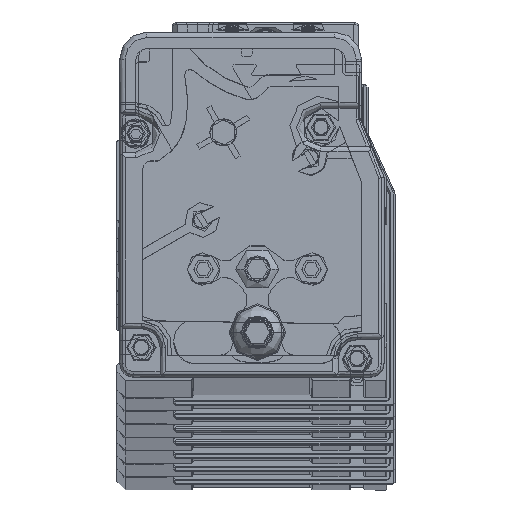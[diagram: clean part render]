
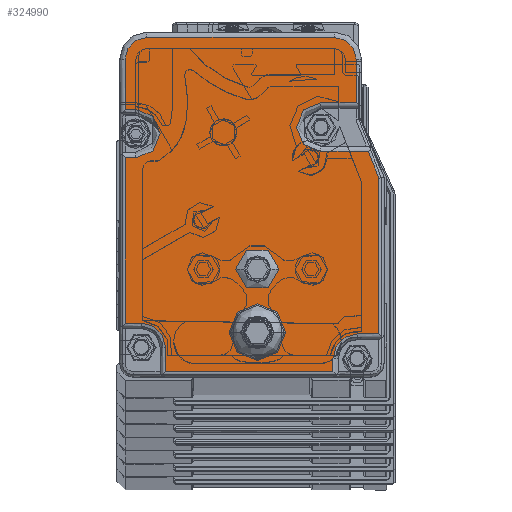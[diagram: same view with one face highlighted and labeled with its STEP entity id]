
A CAD part, top view. The second image highlights one B-rep face of the part: STEP entity #324990.
In plain terms, the highlighted planar face has unit normal (0, 0, 1).
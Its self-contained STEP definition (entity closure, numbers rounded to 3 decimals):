
#224670=CARTESIAN_POINT('',(-25.559,5.624,
2758.89));
#224680=DIRECTION('',(0.,0.,-1.));
#224690=DIRECTION('',(-1.,0.,0.));
#224700=AXIS2_PLACEMENT_3D('',#224670,#224680,#224690);
#224710=CIRCLE('',#224700,4.5);
#224720=CARTESIAN_POINT('',(-30.059,5.624,
2758.89));
#224730=VERTEX_POINT('',#224720);
#224740=CARTESIAN_POINT('',(-25.559,10.124,
2758.89));
#224750=VERTEX_POINT('',#224740);
#224760=EDGE_CURVE('',#224730,#224750,#224710,.T.);
#231020=CARTESIAN_POINT('',(-25.759,2.124,
2758.89));
#231030=DIRECTION('',(0.,1.,0.));
#231040=VECTOR('',#231030,1.);
#231050=LINE('',#231020,#231040);
#231060=CARTESIAN_POINT('',(-25.759,52.924,
2758.89));
#231070=VERTEX_POINT('',#231060);
#231080=CARTESIAN_POINT('',(-25.759,61.024,
2758.89));
#231090=VERTEX_POINT('',#231080);
#231100=EDGE_CURVE('',#231070,#231090,#231050,.T.);
#249650=CARTESIAN_POINT('',(-20.559,42.727,
2758.89));
#249660=DIRECTION('',(-1.,0.,0.));
#249670=VECTOR('',#249660,1.);
#249680=LINE('',#249650,#249670);
#249690=CARTESIAN_POINT('',(-66.559,42.727,
2758.89));
#249700=VERTEX_POINT('',#249690);
#249710=CARTESIAN_POINT('',(-68.559,42.727,
2758.89));
#249720=VERTEX_POINT('',#249710);
#249730=EDGE_CURVE('',#249700,#249720,#249680,.T.);
#270220=CARTESIAN_POINT('',(-29.759,61.024,
2758.89));
#270230=DIRECTION('',(0.,0.,1.));
#270240=DIRECTION('',(1.,0.,0.));
#270250=AXIS2_PLACEMENT_3D('',#270220,#270230,#270240);
#270260=CIRCLE('',#270250,4.);
#270270=CARTESIAN_POINT('',(-29.759,65.024,
2758.89));
#270280=VERTEX_POINT('',#270270);
#270290=EDGE_CURVE('',#231090,#270280,#270260,.T.);
#276880=CARTESIAN_POINT('',(-68.559,2.124,
2758.89));
#276890=DIRECTION('',(0.,-1.,0.));
#276900=VECTOR('',#276890,1.);
#276910=LINE('',#276880,#276900);
#276920=CARTESIAN_POINT('',(-68.559,12.124,
2758.89));
#276930=VERTEX_POINT('',#276920);
#276940=EDGE_CURVE('',#249720,#276930,#276910,.T.);
#323040=CARTESIAN_POINT('',(-7.243,2.124,
2758.89));
#323050=DIRECTION('',(0.362,-0.932,0.));
#323060=VECTOR('',#323050,1.);
#323070=LINE('',#323040,#323060);
#323080=CARTESIAN_POINT('',(-23.499,43.924,
2758.89));
#323090=VERTEX_POINT('',#323080);
#323100=CARTESIAN_POINT('',(-21.559,38.937,
2758.89));
#323110=VERTEX_POINT('',#323100);
#323120=EDGE_CURVE('',#323090,#323110,#323070,.T.);
#323400=CARTESIAN_POINT('',(-20.265,1.758,
2758.89));
#323410=DIRECTION('',(0.,0.,-1.));
#323420=DIRECTION('',(-1.,0.,0.));
#323430=AXIS2_PLACEMENT_3D('',#323400,#323410,#323420);
#323440=PLANE('',#323430);
#323450=CARTESIAN_POINT('',(-44.056,10.421,
2758.89));
#323460=DIRECTION('',(0.,0.,-1.));
#323470=DIRECTION('',(-1.,0.,0.));
#323480=AXIS2_PLACEMENT_3D('',#323450,#323460,#323470);
#323490=CIRCLE('',#323480,5.);
#323500=CARTESIAN_POINT('',(-39.056,10.421,
2758.89));
#323510=VERTEX_POINT('',#323500);
#323520=CARTESIAN_POINT('',(-49.056,10.421,
2758.89));
#323530=VERTEX_POINT('',#323520);
#323540=EDGE_CURVE('',#323510,#323530,#323490,.T.);
#323550=ORIENTED_EDGE('',*,*,#323540,.T.);
#323560=EDGE_CURVE('',#323530,#323510,#323490,.T.);
#323570=ORIENTED_EDGE('',*,*,#323560,.T.);
#323580=EDGE_LOOP('',(#323570,#323550));
#323590=FACE_BOUND('',#323580,.T.);
#323600=CARTESIAN_POINT('',(-44.059,22.124,
2758.89));
#323610=DIRECTION('',(0.,0.,1.));
#323620=DIRECTION('',(-1.,0.,0.));
#323630=AXIS2_PLACEMENT_3D('',#323600,#323610,#323620);
#323640=CIRCLE('',#323630,4.);
#323650=CARTESIAN_POINT('',(-40.059,22.124,
2758.89));
#323660=VERTEX_POINT('',#323650);
#323670=CARTESIAN_POINT('',(-48.059,22.124,
2758.89));
#323680=VERTEX_POINT('',#323670);
#323690=EDGE_CURVE('',#323660,#323680,#323640,.T.);
#323700=ORIENTED_EDGE('',*,*,#323690,.F.);
#323710=EDGE_CURVE('',#323680,#323660,#323640,.T.);
#323720=ORIENTED_EDGE('',*,*,#323710,.F.);
#323730=EDGE_LOOP('',(#323720,#323700));
#323740=FACE_BOUND('',#323730,.T.);
#323750=CARTESIAN_POINT('',(-61.059,2.124,
2758.89));
#323760=DIRECTION('',(0.,-1.,0.));
#323770=VECTOR('',#323760,1.);
#323780=LINE('',#323750,#323770);
#323790=CARTESIAN_POINT('',(-61.059,7.624,
2758.89));
#323800=VERTEX_POINT('',#323790);
#323810=CARTESIAN_POINT('',(-61.059,3.124,
2758.89));
#323820=VERTEX_POINT('',#323810);
#323830=EDGE_CURVE('',#323800,#323820,#323780,.T.);
#323840=ORIENTED_EDGE('',*,*,#323830,.T.);
#323850=CARTESIAN_POINT('',(-65.559,7.624,
2758.89));
#323860=DIRECTION('',(0.,0.,-1.));
#323870=DIRECTION('',(-1.,0.,0.));
#323880=AXIS2_PLACEMENT_3D('',#323850,#323860,#323870);
#323890=CIRCLE('',#323880,4.5);
#323900=CARTESIAN_POINT('',(-65.559,12.124,
2758.89));
#323910=VERTEX_POINT('',#323900);
#323920=EDGE_CURVE('',#323910,#323800,#323890,.T.);
#323930=ORIENTED_EDGE('',*,*,#323920,.T.);
#323940=CARTESIAN_POINT('',(-20.559,12.124,
2758.89));
#323950=DIRECTION('',(1.,0.,0.));
#323960=VECTOR('',#323950,1.);
#323970=LINE('',#323940,#323960);
#323980=EDGE_CURVE('',#276930,#323910,#323970,.T.);
#323990=ORIENTED_EDGE('',*,*,#323980,.T.);
#324000=ORIENTED_EDGE('',*,*,#276940,.T.);
#324010=ORIENTED_EDGE('',*,*,#249730,.T.);
#324020=CARTESIAN_POINT('',(-66.559,47.227,
2758.89));
#324030=DIRECTION('',(0.,0.,-1.));
#324040=DIRECTION('',(-1.,0.,0.));
#324050=AXIS2_PLACEMENT_3D('',#324020,#324030,#324040);
#324060=CIRCLE('',#324050,4.5);
#324070=CARTESIAN_POINT('',(-66.559,51.727,
2758.89));
#324080=VERTEX_POINT('',#324070);
#324090=EDGE_CURVE('',#324080,#249700,#324060,.T.);
#324100=ORIENTED_EDGE('',*,*,#324090,.T.);
#324110=CARTESIAN_POINT('',(-20.559,51.727,
2758.89));
#324120=DIRECTION('',(1.,0.,0.));
#324130=VECTOR('',#324120,1.);
#324140=LINE('',#324110,#324130);
#324150=CARTESIAN_POINT('',(-68.559,51.727,
2758.89));
#324160=VERTEX_POINT('',#324150);
#324170=EDGE_CURVE('',#324160,#324080,#324140,.T.);
#324180=ORIENTED_EDGE('',*,*,#324170,.T.);
#324190=CARTESIAN_POINT('',(-68.559,2.124,
2758.89));
#324200=DIRECTION('',(0.,-1.,0.));
#324210=VECTOR('',#324200,1.);
#324220=LINE('',#324190,#324210);
#324230=CARTESIAN_POINT('',(-68.559,61.024,
2758.89));
#324240=VERTEX_POINT('',#324230);
#324250=EDGE_CURVE('',#324240,#324160,#324220,.T.);
#324260=ORIENTED_EDGE('',*,*,#324250,.T.);
#324270=CARTESIAN_POINT('',(-64.559,61.024,
2758.89));
#324280=DIRECTION('',(0.,0.,1.));
#324290=DIRECTION('',(1.,0.,0.));
#324300=AXIS2_PLACEMENT_3D('',#324270,#324280,#324290);
#324310=CIRCLE('',#324300,4.);
#324320=CARTESIAN_POINT('',(-64.559,65.024,
2758.89));
#324330=VERTEX_POINT('',#324320);
#324340=EDGE_CURVE('',#324330,#324240,#324310,.T.);
#324350=ORIENTED_EDGE('',*,*,#324340,.T.);
#324360=CARTESIAN_POINT('',(-20.559,65.024,
2758.89));
#324370=DIRECTION('',(-1.,0.,0.));
#324380=VECTOR('',#324370,1.);
#324390=LINE('',#324360,#324380);
#324400=EDGE_CURVE('',#270280,#324330,#324390,.T.);
#324410=ORIENTED_EDGE('',*,*,#324400,.T.);
#324420=ORIENTED_EDGE('',*,*,#270290,.T.);
#324430=ORIENTED_EDGE('',*,*,#231100,.T.);
#324440=CARTESIAN_POINT('',(-20.559,52.924,
2758.89));
#324450=DIRECTION('',(-1.,0.,0.));
#324460=VECTOR('',#324450,1.);
#324470=LINE('',#324440,#324460);
#324480=CARTESIAN_POINT('',(-32.309,52.924,
2758.89));
#324490=VERTEX_POINT('',#324480);
#324500=EDGE_CURVE('',#231070,#324490,#324470,.T.);
#324510=ORIENTED_EDGE('',*,*,#324500,.F.);
#324520=CARTESIAN_POINT('',(-32.309,48.424,
2758.89));
#324530=DIRECTION('',(0.,0.,-1.));
#324540=DIRECTION('',(-1.,0.,0.));
#324550=AXIS2_PLACEMENT_3D('',#324520,#324530,#324540);
#324560=CIRCLE('',#324550,4.5);
#324570=CARTESIAN_POINT('',(-32.309,43.924,
2758.89));
#324580=VERTEX_POINT('',#324570);
#324590=EDGE_CURVE('',#324580,#324490,#324560,.T.);
#324600=ORIENTED_EDGE('',*,*,#324590,.T.);
#324610=CARTESIAN_POINT('',(-20.559,43.924,
2758.89));
#324620=DIRECTION('',(-1.,0.,0.));
#324630=VECTOR('',#324620,1.);
#324640=LINE('',#324610,#324630);
#324650=EDGE_CURVE('',#323090,#324580,#324640,.T.);
#324660=ORIENTED_EDGE('',*,*,#324650,.T.);
#324670=ORIENTED_EDGE('',*,*,#323120,.F.);
#324680=CARTESIAN_POINT('',(-21.559,2.124,
2758.89));
#324690=DIRECTION('',(0.,-1.,0.));
#324700=VECTOR('',#324690,1.);
#324710=LINE('',#324680,#324700);
#324720=CARTESIAN_POINT('',(-21.559,10.124,
2758.89));
#324730=VERTEX_POINT('',#324720);
#324740=EDGE_CURVE('',#323110,#324730,#324710,.T.);
#324750=ORIENTED_EDGE('',*,*,#324740,.F.);
#324760=CARTESIAN_POINT('',(-20.559,10.124,
2758.89));
#324770=DIRECTION('',(1.,0.,0.));
#324780=VECTOR('',#324770,1.);
#324790=LINE('',#324760,#324780);
#324800=EDGE_CURVE('',#224750,#324730,#324790,.T.);
#324810=ORIENTED_EDGE('',*,*,#324800,.T.);
#324820=ORIENTED_EDGE('',*,*,#224760,.T.);
#324830=CARTESIAN_POINT('',(-30.059,2.124,
2758.89));
#324840=DIRECTION('',(0.,1.,0.));
#324850=VECTOR('',#324840,1.);
#324860=LINE('',#324830,#324850);
#324870=CARTESIAN_POINT('',(-30.059,3.124,
2758.89));
#324880=VERTEX_POINT('',#324870);
#324890=EDGE_CURVE('',#324880,#224730,#324860,.T.);
#324900=ORIENTED_EDGE('',*,*,#324890,.T.);
#324910=CARTESIAN_POINT('',(-20.559,3.124,
2758.89));
#324920=DIRECTION('',(-1.,0.,0.));
#324930=VECTOR('',#324920,1.);
#324940=LINE('',#324910,#324930);
#324950=EDGE_CURVE('',#324880,#323820,#324940,.T.);
#324960=ORIENTED_EDGE('',*,*,#324950,.F.);
#324970=EDGE_LOOP('',(#324960,#324900,#324820,#324810,#324750,#324670,
#324660,#324600,#324510,#324430,#324420,#324410,#324350,#324260,#324180,
#324100,#324010,#324000,#323990,#323930,#323840));
#324980=FACE_OUTER_BOUND('',#324970,.T.);
#324990=ADVANCED_FACE('',(#323590,#323740,#324980),#323440,.F.);
